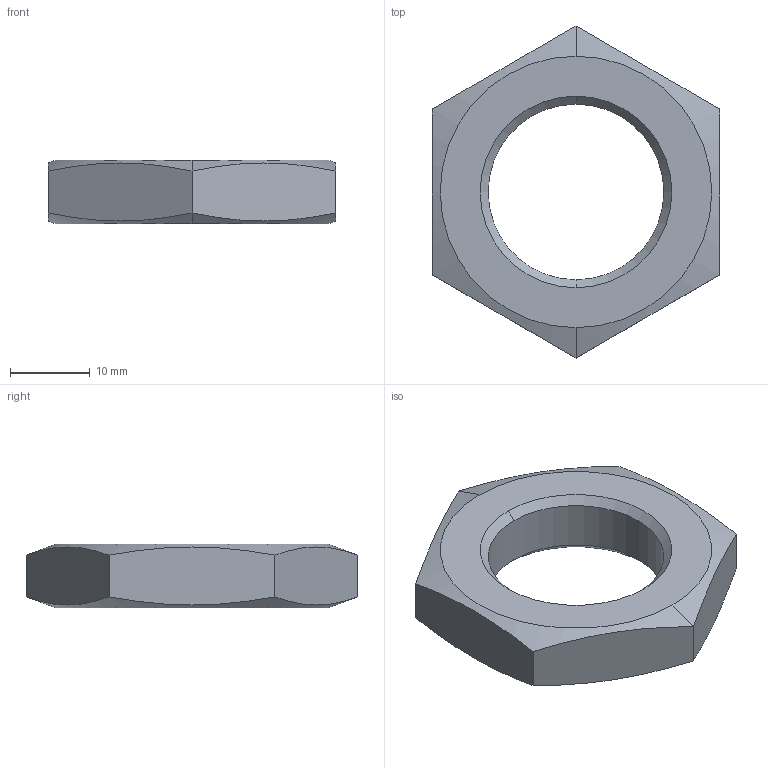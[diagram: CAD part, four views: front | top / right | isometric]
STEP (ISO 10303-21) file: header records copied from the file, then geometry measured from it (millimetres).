
FILE_DESCRIPTION((''),'2;1');
FILE_NAME('3008010180','2024-11-18T11:29:21',('GND7HC'),(''),'CREO PARAMETRIC BY PTC INC, 2023092','CREO PARAMETRIC BY PTC INC, 2023092','');
FILE_SCHEMA(('CONFIG_CONTROL_DESIGN','SHAPE_APPEARANCE_LAYERS_GROUPS'));
Length unit declared in the file: millimetre
Products named in the file (1): 3008010180
Bounding box: 36 x 41.57 x 8 mm (x, y, z)
Volume: 5686.4 mm3; surface area: 2806.7 mm2
Topology: 1 solids, 1 shells, 18 faces, 44 edges, 28 vertices
Faces by surface type: plane 8, cone 8, cylinder 2
Entity records: 968 total; most frequent: CARTESIAN_POINT 354, ORIENTED_EDGE 88, DIRECTION 84, PRESENTATION_STYLE_ASSIGNMENT 45, STYLED_ITEM 45, CURVE_STYLE 44, EDGE_CURVE 44, AXIS2_PLACEMENT_3D 34
